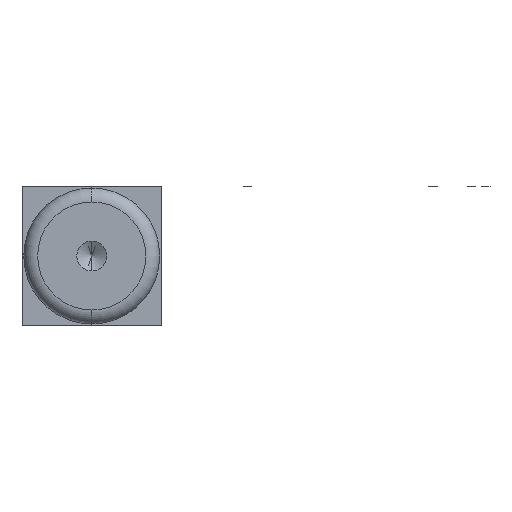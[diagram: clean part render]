
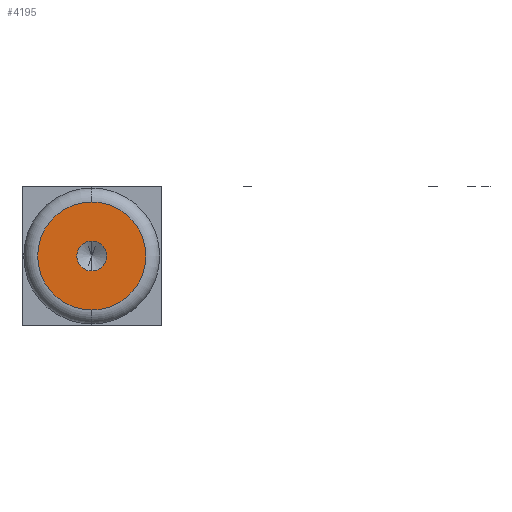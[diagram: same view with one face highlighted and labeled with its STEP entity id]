
A CAD part, left-side view. The second image highlights one B-rep face of the part: STEP entity #4195.
In plain terms, the highlighted planar face has unit normal (-1, 0, 0).
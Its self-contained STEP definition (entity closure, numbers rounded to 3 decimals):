
#132=CARTESIAN_POINT('',(-60.0,0.0,-15.5));
#133=VERTEX_POINT('',#132);
#151=CARTESIAN_POINT('',(-60.0,0.,15.5));
#152=VERTEX_POINT('',#151);
#160=CARTESIAN_POINT('',(-60.0,0.0,0.0));
#161=DIRECTION('',(1.0,0.0,0.0));
#162=DIRECTION('',(0.0,-1.0,0.0));
#163=AXIS2_PLACEMENT_3D('',#160,#161,#162);
#164=CIRCLE('',#163,15.5);
#165=EDGE_CURVE('',#152,#133,#164,.T.);
#269=CARTESIAN_POINT('',(-60.0,0.0,4.285));
#270=VERTEX_POINT('',#269);
#279=CARTESIAN_POINT('',(-60.0,0.,-4.285));
#280=VERTEX_POINT('',#279);
#281=CARTESIAN_POINT('',(-60.0,0.0,0.0));
#282=DIRECTION('',(1.0,0.0,0.0));
#283=DIRECTION('',(0.0,0.0,1.0));
#284=AXIS2_PLACEMENT_3D('',#281,#282,#283);
#285=CIRCLE('',#284,4.285);
#286=EDGE_CURVE('',#280,#270,#285,.T.);
#4079=CARTESIAN_POINT('',(-60.0,0.0,0.0));
#4080=DIRECTION('',(1.0,0.0,0.0));
#4081=DIRECTION('',(0.0,0.0,1.0));
#4082=AXIS2_PLACEMENT_3D('',#4079,#4080,#4081);
#4083=CIRCLE('',#4082,4.285);
#4084=EDGE_CURVE('',#270,#280,#4083,.T.);
#4153=CARTESIAN_POINT('',(-60.0,15.5,0.0));
#4154=VERTEX_POINT('',#4153);
#4155=CARTESIAN_POINT('',(-60.0,0.0,0.0));
#4156=DIRECTION('',(1.0,0.0,0.0));
#4157=DIRECTION('',(0.0,-1.0,0.0));
#4158=AXIS2_PLACEMENT_3D('',#4155,#4156,#4157);
#4159=CIRCLE('',#4158,15.5);
#4160=EDGE_CURVE('',#133,#4154,#4159,.T.);
#4162=CARTESIAN_POINT('',(-60.0,0.0,0.0));
#4163=DIRECTION('',(1.0,0.0,0.0));
#4164=DIRECTION('',(0.0,-1.0,0.0));
#4165=AXIS2_PLACEMENT_3D('',#4162,#4163,#4164);
#4166=CIRCLE('',#4165,15.5);
#4167=EDGE_CURVE('',#4154,#152,#4166,.T.);
#4181=CARTESIAN_POINT('',(-60.0,9.75,0.0));
#4182=DIRECTION('',(-1.0,0.0,0.0));
#4183=DIRECTION('',(0.0,0.0,1.0));
#4184=AXIS2_PLACEMENT_3D('',#4181,#4182,#4183);
#4185=PLANE('',#4184);
#4186=ORIENTED_EDGE('',*,*,#4167,.F.);
#4187=ORIENTED_EDGE('',*,*,#4160,.F.);
#4188=ORIENTED_EDGE('',*,*,#165,.F.);
#4189=EDGE_LOOP('',(#4186,#4187,#4188));
#4190=FACE_OUTER_BOUND('',#4189,.T.);
#4191=ORIENTED_EDGE('',*,*,#4084,.T.);
#4192=ORIENTED_EDGE('',*,*,#286,.T.);
#4193=EDGE_LOOP('',(#4191,#4192));
#4194=FACE_BOUND('',#4193,.T.);
#4195=ADVANCED_FACE('',(#4190,#4194),#4185,.T.);
